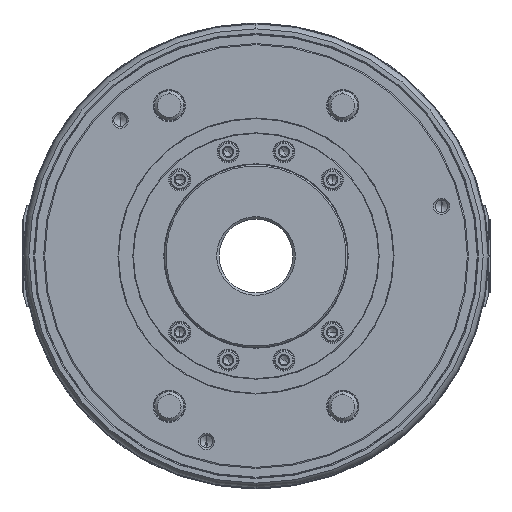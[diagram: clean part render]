
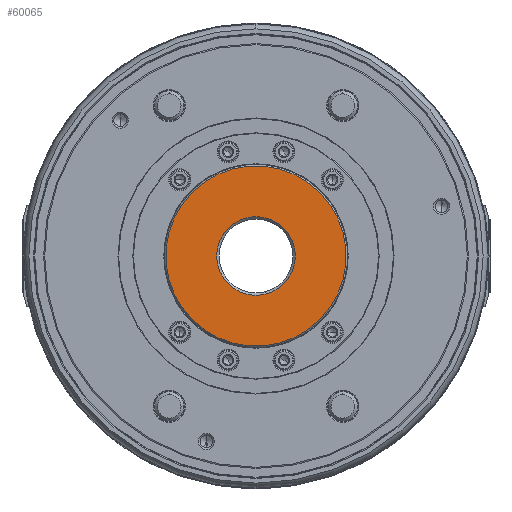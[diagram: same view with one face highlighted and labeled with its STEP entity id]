
A CAD part, left-side view. The second image highlights one B-rep face of the part: STEP entity #60065.
In plain terms, the highlighted planar face has unit normal (-1, 0, 0).
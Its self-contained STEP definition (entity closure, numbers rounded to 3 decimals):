
#484 = EDGE_LOOP ( 'NONE', ( #89057, #14615 ) ) ;
#1946 = EDGE_CURVE ( 'NONE', #43338, #36752, #30730, .T. ) ;
#2567 = ORIENTED_EDGE ( 'NONE', *, *, #1946, .F. ) ;
#3785 = FACE_BOUND ( 'NONE', #484, .T. ) ;
#5916 = DIRECTION ( 'NONE',  ( 0., 0., -1. ) ) ;
#8252 = EDGE_LOOP ( 'NONE', ( #69543, #2567 ) ) ;
#9039 = CIRCLE ( 'NONE', #74343, 26.6 ) ;
#10398 = EDGE_CURVE ( 'NONE', #20393, #96760, #9039, .T. ) ;
#10887 = AXIS2_PLACEMENT_3D ( 'NONE', #73577, #81016, #12712 ) ;
#12712 = DIRECTION ( 'NONE',  ( 0., 0., 1. ) ) ;
#14615 = ORIENTED_EDGE ( 'NONE', *, *, #10398, .T. ) ;
#20393 = VERTEX_POINT ( 'NONE', #55555 ) ;
#20814 = CIRCLE ( 'NONE', #67039, 26.6 ) ;
#20962 = EDGE_CURVE ( 'NONE', #96760, #20393, #20814, .T. ) ;
#21332 = CARTESIAN_POINT ( 'NONE',  ( -30., 0., 0. ) ) ;
#23544 = CIRCLE ( 'NONE', #92024, 61. ) ;
#24363 = CARTESIAN_POINT ( 'NONE',  ( -30., 0., 0. ) ) ;
#30730 = CIRCLE ( 'NONE', #57763, 61. ) ;
#35349 = CARTESIAN_POINT ( 'NONE',  ( -30., 0., 0. ) ) ;
#36752 = VERTEX_POINT ( 'NONE', #68001 ) ;
#37810 = DIRECTION ( 'NONE',  ( 1., 0., 0. ) ) ;
#43338 = VERTEX_POINT ( 'NONE', #48504 ) ;
#48504 = CARTESIAN_POINT ( 'NONE',  ( -30., 0., 61. ) ) ;
#55555 = CARTESIAN_POINT ( 'NONE',  ( -30., 0., -26.6 ) ) ;
#55634 = DIRECTION ( 'NONE',  ( 0., 0., -1. ) ) ;
#57763 = AXIS2_PLACEMENT_3D ( 'NONE', #24363, #92678, #63256 ) ;
#59873 = EDGE_CURVE ( 'NONE', #36752, #43338, #23544, .T. ) ;
#60065 = ADVANCED_FACE ( 'NONE', ( #3785, #80054 ), #87056, .T. ) ;
#63256 = DIRECTION ( 'NONE',  ( 0., 0., -1. ) ) ;
#65762 = DIRECTION ( 'NONE',  ( 0., 0., -1. ) ) ;
#67039 = AXIS2_PLACEMENT_3D ( 'NONE', #21332, #37810, #5916 ) ;
#68001 = CARTESIAN_POINT ( 'NONE',  ( -30., 0., -61. ) ) ;
#69543 = ORIENTED_EDGE ( 'NONE', *, *, #59873, .F. ) ;
#70625 = DIRECTION ( 'NONE',  ( 1., 0., 0. ) ) ;
#73577 = CARTESIAN_POINT ( 'NONE',  ( -30., 26.6, 0. ) ) ;
#74343 = AXIS2_PLACEMENT_3D ( 'NONE', #35349, #94707, #65762 ) ;
#79085 = CARTESIAN_POINT ( 'NONE',  ( -30., 0., 0. ) ) ;
#80054 = FACE_OUTER_BOUND ( 'NONE', #8252, .T. ) ;
#81016 = DIRECTION ( 'NONE',  ( -1., 0., 0. ) ) ;
#87056 = PLANE ( 'NONE',  #10887 ) ;
#89057 = ORIENTED_EDGE ( 'NONE', *, *, #20962, .T. ) ;
#92024 = AXIS2_PLACEMENT_3D ( 'NONE', #79085, #70625, #55634 ) ;
#92678 = DIRECTION ( 'NONE',  ( 1., 0., 0. ) ) ;
#92751 = CARTESIAN_POINT ( 'NONE',  ( -30., 0., 26.6 ) ) ;
#94707 = DIRECTION ( 'NONE',  ( 1., 0., 0. ) ) ;
#96760 = VERTEX_POINT ( 'NONE', #92751 ) ;
